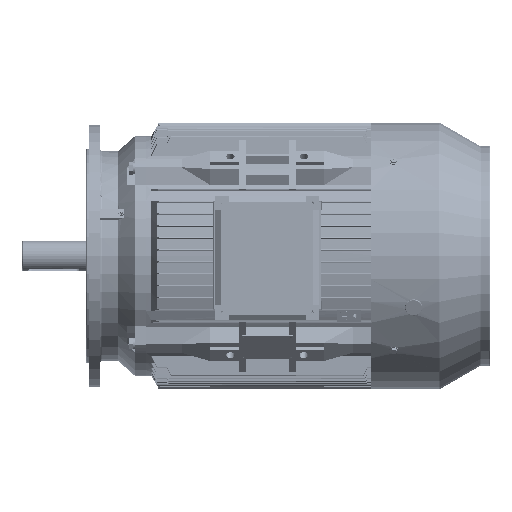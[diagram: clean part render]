
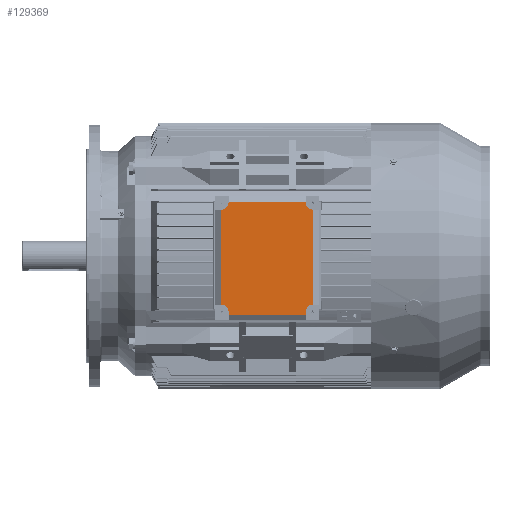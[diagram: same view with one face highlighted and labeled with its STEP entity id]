
A CAD part, top view. The second image highlights one B-rep face of the part: STEP entity #129369.
In plain terms, the highlighted planar face has unit normal (0, 0, 1).
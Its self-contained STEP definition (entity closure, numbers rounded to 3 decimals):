
#128622 = ORIENTED_EDGE ( 'NONE', *, *, #128629, .F. ) ;
#128629 = EDGE_CURVE ( 'NONE', #128637, #128827, #229657, .T. ) ;
#128637 = VERTEX_POINT ( 'NONE', #229632 ) ;
#128641 = ORIENTED_EDGE ( 'NONE', *, *, #129306, .T. ) ;
#128645 = VERTEX_POINT ( 'NONE', #229617 ) ;
#128731 = ORIENTED_EDGE ( 'NONE', *, *, #128735, .T. ) ;
#128735 = EDGE_CURVE ( 'NONE', #129649, #128742, #229855, .T. ) ;
#128742 = VERTEX_POINT ( 'NONE', #229843 ) ;
#128827 = VERTEX_POINT ( 'NONE', #230080 ) ;
#128840 = EDGE_CURVE ( 'NONE', #129466, #128742, #230070, .T. ) ;
#128857 = ORIENTED_EDGE ( 'NONE', *, *, #128859, .F. ) ;
#128859 = EDGE_CURVE ( 'NONE', #128861, #129466, #230227, .T. ) ;
#128861 = VERTEX_POINT ( 'NONE', #230215 ) ;
#128898 = ORIENTED_EDGE ( 'NONE', *, *, #129521, .F. ) ;
#128901 = VERTEX_POINT ( 'NONE', #230314 ) ;
#128923 = VERTEX_POINT ( 'NONE', #230277 ) ;
#128954 = EDGE_CURVE ( 'NONE', #128959, #129543, #230431, .T. ) ;
#128959 = VERTEX_POINT ( 'NONE', #230422 ) ;
#128972 = ORIENTED_EDGE ( 'NONE', *, *, #128979, .F. ) ;
#128979 = EDGE_CURVE ( 'NONE', #128827, #128959, #230365, .T. ) ;
#128983 = ORIENTED_EDGE ( 'NONE', *, *, #128993, .F. ) ;
#128993 = EDGE_CURVE ( 'NONE', #129528, #128901, #230550, .T. ) ;
#129027 = ORIENTED_EDGE ( 'NONE', *, *, #129030, .F. ) ;
#129030 = EDGE_CURVE ( 'NONE', #129209, #128861, #230492, .T. ) ;
#129038 = VERTEX_POINT ( 'NONE', #230662 ) ;
#129179 = ORIENTED_EDGE ( 'NONE', *, *, #129662, .F. ) ;
#129209 = VERTEX_POINT ( 'NONE', #230996 ) ;
#129222 = ORIENTED_EDGE ( 'NONE', *, *, #129536, .T. ) ;
#129244 = ORIENTED_EDGE ( 'NONE', *, *, #129255, .F. ) ;
#129255 = EDGE_CURVE ( 'NONE', #129038, #129433, #231118, .T. ) ;
#129291 = ORIENTED_EDGE ( 'NONE', *, *, #129293, .T. ) ;
#129293 = EDGE_CURVE ( 'NONE', #129664, #128923, #231235, .T. ) ;
#129306 = EDGE_CURVE ( 'NONE', #128637, #128645, #231207, .T. ) ;
#129325 = ORIENTED_EDGE ( 'NONE', *, *, #129330, .F. ) ;
#129330 = EDGE_CURVE ( 'NONE', #129433, #128645, #231369, .T. ) ;
#129339 = ORIENTED_EDGE ( 'NONE', *, *, #128954, .F. ) ;
#129369 = ADVANCED_FACE ( 'NONE', ( #231415 ), #231413, .T. ) ;
#129374 = EDGE_LOOP ( 'NONE', ( #129179, #129291, #128898, #128983, #129634, #128731, #129463, #128857, #129027, #129222, #129339, #128972, #128622, #128641, #129325, #129244 ) ) ;
#129433 = VERTEX_POINT ( 'NONE', #231703 ) ;
#129463 = ORIENTED_EDGE ( 'NONE', *, *, #128840, .F. ) ;
#129466 = VERTEX_POINT ( 'NONE', #231647 ) ;
#129521 = EDGE_CURVE ( 'NONE', #128901, #128923, #231734, .T. ) ;
#129528 = VERTEX_POINT ( 'NONE', #231725 ) ;
#129536 = EDGE_CURVE ( 'NONE', #129209, #129543, #230902, .T. ) ;
#129543 = VERTEX_POINT ( 'NONE', #231911 ) ;
#129634 = ORIENTED_EDGE ( 'NONE', *, *, #129642, .F. ) ;
#129642 = EDGE_CURVE ( 'NONE', #129649, #129528, #232145, .T. ) ;
#129649 = VERTEX_POINT ( 'NONE', #232138 ) ;
#129662 = EDGE_CURVE ( 'NONE', #129664, #129038, #232109, .T. ) ;
#129664 = VERTEX_POINT ( 'NONE', #232085 ) ;
#229617 = CARTESIAN_POINT ( 'NONE',  ( 118., 81., 16. ) ) ;
#229632 = CARTESIAN_POINT ( 'NONE',  ( 118., -81., 16. ) ) ;
#229650 = DIRECTION ( 'NONE',  ( -1., 0., 0. ) ) ;
#229653 = VECTOR ( 'NONE', #229650, 1000. ) ;
#229656 = CARTESIAN_POINT ( 'NONE',  ( 130., -81., 16. ) ) ;
#229657 = LINE ( 'NONE', #229656, #229653 ) ;
#229843 = CARTESIAN_POINT ( 'NONE',  ( -118., -81., 16. ) ) ;
#229846 = DIRECTION ( 'NONE',  ( 0., -1., 0. ) ) ;
#229847 = VECTOR ( 'NONE', #229846, 1000. ) ;
#229851 = CARTESIAN_POINT ( 'NONE',  ( -118., -81., 16. ) ) ;
#229855 = LINE ( 'NONE', #229851, #229847 ) ;
#230039 = VECTOR ( 'NONE', #231936, 1000. ) ;
#230064 = DIRECTION ( 'NONE',  ( -1., 0., 0. ) ) ;
#230067 = VECTOR ( 'NONE', #230064, 1000. ) ;
#230069 = CARTESIAN_POINT ( 'NONE',  ( -130., -81., 16. ) ) ;
#230070 = LINE ( 'NONE', #230069, #230067 ) ;
#230080 = CARTESIAN_POINT ( 'NONE',  ( 112., -81., 16. ) ) ;
#230215 = CARTESIAN_POINT ( 'NONE',  ( -102., -96., 16. ) ) ;
#230217 = DIRECTION ( 'NONE',  ( -1., 0., 0. ) ) ;
#230220 = DIRECTION ( 'NONE',  ( 0., 0., 1. ) ) ;
#230222 = CARTESIAN_POINT ( 'NONE',  ( -117., -96., 16. ) ) ;
#230225 = AXIS2_PLACEMENT_3D ( 'NONE', #230222, #230220, #230217 ) ;
#230227 = CIRCLE ( 'NONE', #230225, 15. ) ;
#230277 = CARTESIAN_POINT ( 'NONE',  ( -102., 97., 16. ) ) ;
#230314 = CARTESIAN_POINT ( 'NONE',  ( -102., 96., 16. ) ) ;
#230354 = DIRECTION ( 'NONE',  ( -1., 0., 0. ) ) ;
#230358 = DIRECTION ( 'NONE',  ( 0., 0., 1. ) ) ;
#230360 = CARTESIAN_POINT ( 'NONE',  ( 112., -96., 16. ) ) ;
#230362 = AXIS2_PLACEMENT_3D ( 'NONE', #230360, #230358, #230354 ) ;
#230365 = CIRCLE ( 'NONE', #230362, 15. ) ;
#230422 = CARTESIAN_POINT ( 'NONE',  ( 97., -96., 16. ) ) ;
#230426 = DIRECTION ( 'NONE',  ( 0., -1., 0. ) ) ;
#230427 = VECTOR ( 'NONE', #230426, 1000. ) ;
#230429 = CARTESIAN_POINT ( 'NONE',  ( 97., -109., 16. ) ) ;
#230431 = LINE ( 'NONE', #230429, #230427 ) ;
#230483 = DIRECTION ( 'NONE',  ( 0., 1., 0. ) ) ;
#230486 = VECTOR ( 'NONE', #230483, 1000. ) ;
#230489 = CARTESIAN_POINT ( 'NONE',  ( -102., -109., 16. ) ) ;
#230492 = LINE ( 'NONE', #230489, #230486 ) ;
#230541 = DIRECTION ( 'NONE',  ( -1., 0., 0. ) ) ;
#230543 = DIRECTION ( 'NONE',  ( 0., 0., 1. ) ) ;
#230546 = CARTESIAN_POINT ( 'NONE',  ( -117., 96., 16. ) ) ;
#230547 = AXIS2_PLACEMENT_3D ( 'NONE', #230546, #230543, #230541 ) ;
#230550 = CIRCLE ( 'NONE', #230547, 15. ) ;
#230662 = CARTESIAN_POINT ( 'NONE',  ( 97., 96., 16. ) ) ;
#230900 = CARTESIAN_POINT ( 'NONE',  ( 97., -97., 16. ) ) ;
#230902 = LINE ( 'NONE', #230900, #230039 ) ;
#230996 = CARTESIAN_POINT ( 'NONE',  ( -102., -97., 16. ) ) ;
#231109 = DIRECTION ( 'NONE',  ( -1., 0., 0. ) ) ;
#231111 = DIRECTION ( 'NONE',  ( 0., 0., 1. ) ) ;
#231113 = CARTESIAN_POINT ( 'NONE',  ( 112., 96., 16. ) ) ;
#231115 = AXIS2_PLACEMENT_3D ( 'NONE', #231113, #231111, #231109 ) ;
#231118 = CIRCLE ( 'NONE', #231115, 15. ) ;
#231196 = DIRECTION ( 'NONE',  ( 0., 1., 0. ) ) ;
#231199 = VECTOR ( 'NONE', #231196, 1000. ) ;
#231202 = CARTESIAN_POINT ( 'NONE',  ( 118., 81., 16. ) ) ;
#231207 = LINE ( 'NONE', #231202, #231199 ) ;
#231226 = DIRECTION ( 'NONE',  ( -1., 0., 0. ) ) ;
#231229 = VECTOR ( 'NONE', #231226, 1000. ) ;
#231232 = CARTESIAN_POINT ( 'NONE',  ( -102., 97., 16. ) ) ;
#231235 = LINE ( 'NONE', #231232, #231229 ) ;
#231324 = DIRECTION ( 'NONE',  ( 1., 0., 0. ) ) ;
#231327 = VECTOR ( 'NONE', #231324, 1000. ) ;
#231329 = CARTESIAN_POINT ( 'NONE',  ( 130., 81., 16. ) ) ;
#231369 = LINE ( 'NONE', #231329, #231327 ) ;
#231411 = CARTESIAN_POINT ( 'NONE',  ( -130., -109., 16. ) ) ;
#231413 = PLANE ( 'NONE',  #231613 ) ;
#231415 = FACE_OUTER_BOUND ( 'NONE', #129374, .T. ) ;
#231607 = DIRECTION ( 'NONE',  ( 1., 0., 0. ) ) ;
#231610 = DIRECTION ( 'NONE',  ( 0., 0., 1. ) ) ;
#231613 = AXIS2_PLACEMENT_3D ( 'NONE', #231411, #231610, #231607 ) ;
#231647 = CARTESIAN_POINT ( 'NONE',  ( -117., -81., 16. ) ) ;
#231703 = CARTESIAN_POINT ( 'NONE',  ( 112., 81., 16. ) ) ;
#231725 = CARTESIAN_POINT ( 'NONE',  ( -117., 81., 16. ) ) ;
#231728 = DIRECTION ( 'NONE',  ( 0., 1., 0. ) ) ;
#231730 = VECTOR ( 'NONE', #231728, 1000. ) ;
#231733 = CARTESIAN_POINT ( 'NONE',  ( -102., 109., 16. ) ) ;
#231734 = LINE ( 'NONE', #231733, #231730 ) ;
#231911 = CARTESIAN_POINT ( 'NONE',  ( 97., -97., 16. ) ) ;
#231936 = DIRECTION ( 'NONE',  ( 1., 0., 0. ) ) ;
#232085 = CARTESIAN_POINT ( 'NONE',  ( 97., 97., 16. ) ) ;
#232087 = DIRECTION ( 'NONE',  ( 0., -1., 0. ) ) ;
#232089 = VECTOR ( 'NONE', #232087, 1000. ) ;
#232093 = CARTESIAN_POINT ( 'NONE',  ( 97., 109., 16. ) ) ;
#232109 = LINE ( 'NONE', #232093, #232089 ) ;
#232138 = CARTESIAN_POINT ( 'NONE',  ( -118., 81., 16. ) ) ;
#232140 = DIRECTION ( 'NONE',  ( 1., 0., 0. ) ) ;
#232142 = VECTOR ( 'NONE', #232140, 1000. ) ;
#232143 = CARTESIAN_POINT ( 'NONE',  ( -130., 81., 16. ) ) ;
#232145 = LINE ( 'NONE', #232143, #232142 ) ;
